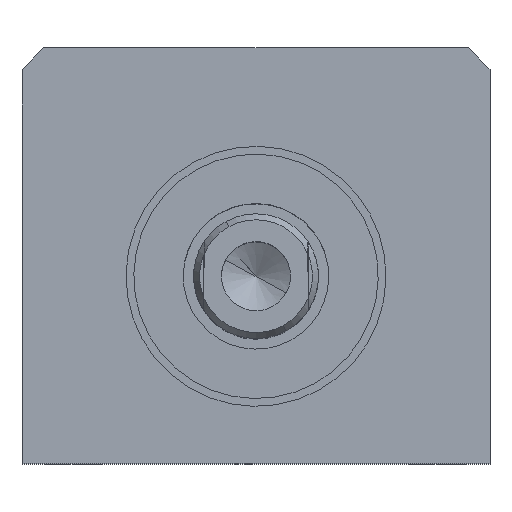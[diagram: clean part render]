
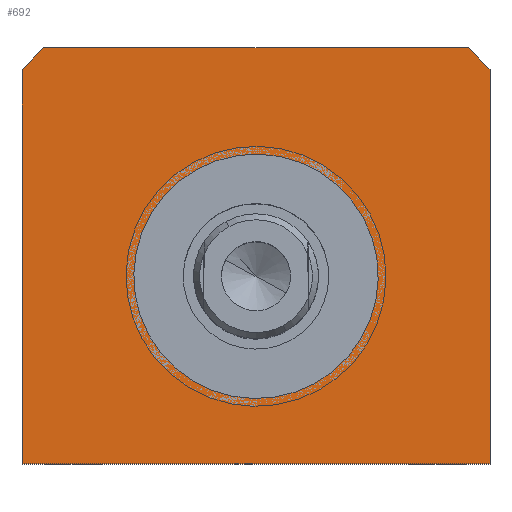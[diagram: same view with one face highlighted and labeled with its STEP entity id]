
A CAD part, top view. The second image highlights one B-rep face of the part: STEP entity #692.
In plain terms, the highlighted planar face has unit normal (0, 0, 1).
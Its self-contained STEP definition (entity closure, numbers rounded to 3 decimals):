
#119=CARTESIAN_POINT('Vertex',(22.5,-18.,53.)) ;
#124=CARTESIAN_POINT('Line Origine',(0.,-18.,53.)) ;
#128=CARTESIAN_POINT('Vertex',(-22.5,-18.,53.)) ;
#371=CARTESIAN_POINT('Vertex',(-5.633,10.312,53.)) ;
#378=CARTESIAN_POINT('Vertex',(5.633,-10.312,53.)) ;
#381=CARTESIAN_POINT('Axis2P3D Location',(0.,0.,53.)) ;
#393=CARTESIAN_POINT('Axis2P3D Location',(0.,0.,53.)) ;
#642=CARTESIAN_POINT('Axis2P3D Location',(0.,30.,53.)) ;
#647=CARTESIAN_POINT('Line Origine',(0.,22.,53.)) ;
#651=CARTESIAN_POINT('Vertex',(20.396,22.,53.)) ;
#653=CARTESIAN_POINT('Vertex',(-20.396,22.,53.)) ;
#656=CARTESIAN_POINT('Axis2P3D Location',(0.,0.,53.)) ;
#660=CARTESIAN_POINT('Vertex',(-22.5,19.843,53.)) ;
#663=CARTESIAN_POINT('Line Origine',(-22.5,0.922,53.)) ;
#668=CARTESIAN_POINT('Line Origine',(22.5,0.922,53.)) ;
#672=CARTESIAN_POINT('Vertex',(22.5,19.843,53.)) ;
#675=CARTESIAN_POINT('Axis2P3D Location',(0.,0.,53.)) ;
#125=DIRECTION('Vector Direction',(-1.,0.,0.)) ;
#382=DIRECTION('Axis2P3D Direction',(0.,0.,1.)) ;
#394=DIRECTION('Axis2P3D Direction',(0.,0.,1.)) ;
#643=DIRECTION('Axis2P3D Direction',(0.,0.,1.)) ;
#644=DIRECTION('Axis2P3D XDirection',(1.,0.,0.)) ;
#648=DIRECTION('Vector Direction',(1.,0.,0.)) ;
#657=DIRECTION('Axis2P3D Direction',(0.,0.,1.)) ;
#664=DIRECTION('Vector Direction',(0.,-1.,0.)) ;
#669=DIRECTION('Vector Direction',(0.,1.,0.)) ;
#676=DIRECTION('Axis2P3D Direction',(0.,0.,1.)) ;
#383=AXIS2_PLACEMENT_3D('Circle Axis2P3D',#381,#382,$) ;
#395=AXIS2_PLACEMENT_3D('Circle Axis2P3D',#393,#394,$) ;
#645=AXIS2_PLACEMENT_3D('Plane Axis2P3D',#642,#643,#644) ;
#658=AXIS2_PLACEMENT_3D('Circle Axis2P3D',#656,#657,$) ;
#677=AXIS2_PLACEMENT_3D('Circle Axis2P3D',#675,#676,$) ;
#681=ORIENTED_EDGE('',*,*,#655,.T.) ;
#682=ORIENTED_EDGE('',*,*,#662,.T.) ;
#683=ORIENTED_EDGE('',*,*,#667,.T.) ;
#684=ORIENTED_EDGE('',*,*,#130,.T.) ;
#685=ORIENTED_EDGE('',*,*,#674,.T.) ;
#686=ORIENTED_EDGE('',*,*,#679,.T.) ;
#689=ORIENTED_EDGE('',*,*,#397,.F.) ;
#690=ORIENTED_EDGE('',*,*,#385,.F.) ;
#691=FACE_BOUND('',#688,.T.) ;
#126=VECTOR('Line Direction',#125,1.) ;
#649=VECTOR('Line Direction',#648,1.) ;
#665=VECTOR('Line Direction',#664,1.) ;
#670=VECTOR('Line Direction',#669,1.) ;
#692=ADVANCED_FACE('PartBody',(#687,#691),#646,.T.) ;
#384=CIRCLE('generated circle',#383,11.75) ;
#396=CIRCLE('generated circle',#395,11.75) ;
#659=CIRCLE('generated circle',#658,30.) ;
#678=CIRCLE('generated circle',#677,30.) ;
#130=EDGE_CURVE('',#129,#120,#127,.F.) ;
#385=EDGE_CURVE('',#379,#372,#384,.T.) ;
#397=EDGE_CURVE('',#372,#379,#396,.T.) ;
#655=EDGE_CURVE('',#652,#654,#650,.F.) ;
#662=EDGE_CURVE('',#654,#661,#659,.T.) ;
#667=EDGE_CURVE('',#661,#129,#666,.T.) ;
#674=EDGE_CURVE('',#120,#673,#671,.T.) ;
#679=EDGE_CURVE('',#673,#652,#678,.T.) ;
#680=EDGE_LOOP('',(#681,#682,#683,#684,#685,#686)) ;
#688=EDGE_LOOP('',(#689,#690)) ;
#687=FACE_OUTER_BOUND('',#680,.T.) ;
#127=LINE('Line',#124,#126) ;
#650=LINE('Line',#647,#649) ;
#666=LINE('Line',#663,#665) ;
#671=LINE('Line',#668,#670) ;
#646=PLANE('Plane',#645) ;
#120=VERTEX_POINT('',#119) ;
#129=VERTEX_POINT('',#128) ;
#372=VERTEX_POINT('',#371) ;
#379=VERTEX_POINT('',#378) ;
#652=VERTEX_POINT('',#651) ;
#654=VERTEX_POINT('',#653) ;
#661=VERTEX_POINT('',#660) ;
#673=VERTEX_POINT('',#672) ;
